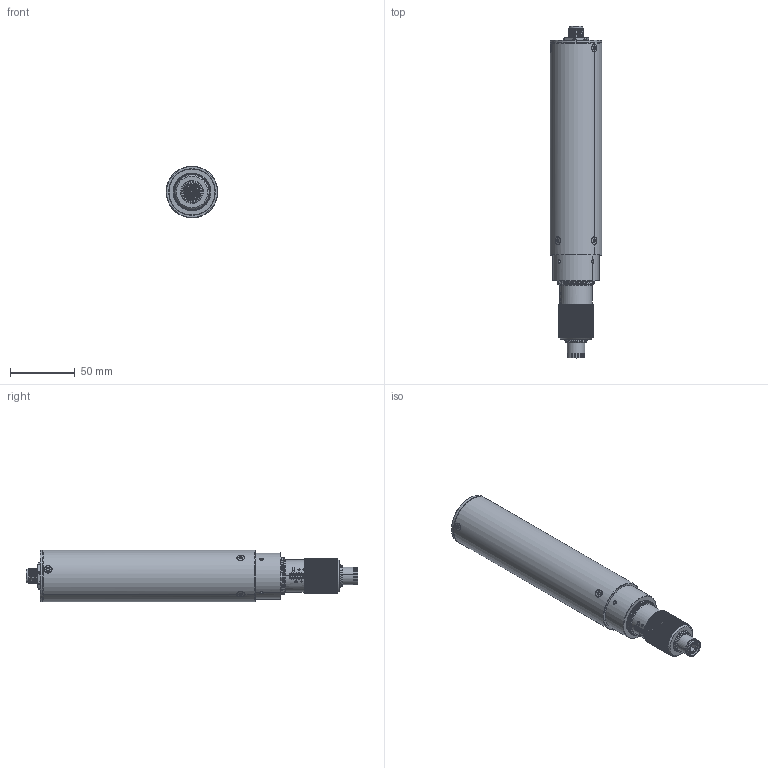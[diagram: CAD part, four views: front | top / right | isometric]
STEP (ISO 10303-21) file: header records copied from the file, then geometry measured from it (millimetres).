
FILE_DESCRIPTION (( 'STEP AP214' ), '1' );
FILE_NAME ('04-15FR_CA.STEP', '2013-06-06T07:33:52', ( '' ), ( '' ), 'SwSTEP 2.0', 'SolidWorks 2013', '' );
FILE_SCHEMA (( 'AUTOMOTIVE_DESIGN' ));
Length unit declared in the file: millimetre
Products named in the file (1): 04-15FR_CA
Bounding box: 40 x 256.6 x 40 mm (x, y, z)
Volume: 85543.8 mm3; surface area: 77011.9 mm2
Topology: 26 solids, 26 shells, 1720 faces, 4548 edges, 2905 vertices
Faces by surface type: cylinder 883, plane 496, cone 219, bspline 47, torus 40, sphere 35
Entity records: 97662 total; most frequent: CARTESIAN_POINT 37946, ORIENTED_EDGE 9010, DIRECTION 7980, EDGE_CURVE 4505, AXIS2_PLACEMENT_3D 3130, VERTEX_POINT 2893, EDGE_LOOP 1824, UNCERTAINTY_MEASURE_WITH_UNIT 1748
